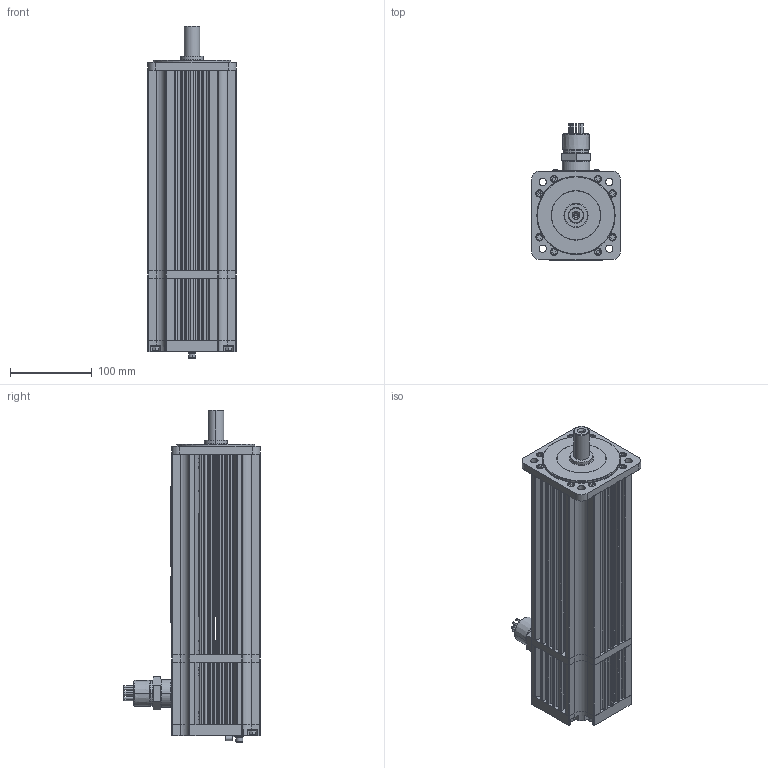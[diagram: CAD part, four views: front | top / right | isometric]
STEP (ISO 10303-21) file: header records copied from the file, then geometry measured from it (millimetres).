
FILE_DESCRIPTION (( 'STEP AP203' ), '1' );
FILE_NAME ('M443-KNN0-CG08.STEP', '2010-09-20T13:54:02', ( '' ), ( '' ), 'SwSTEP 2.0', 'SolidWorks 2010', '' );
FILE_SCHEMA (( 'CONFIG_CONTROL_DESIGN' ));
Length unit declared in the file: inch
Products named in the file (1): M443-KNN0-CG08
Bounding box: 108 x 166.17 x 405.2 mm (x, y, z)
Surface area: 390056.3 mm2 (no closed solid volume)
Topology: 0 solids, 162 shells, 1794 faces, 6112 edges, 4447 vertices
Faces by surface type: plane 837, cylinder 657, cone 178, torus 80, bspline 42
Entity records: 74179 total; most frequent: CARTESIAN_POINT 21761, DIRECTION 10906, ORIENTED_EDGE 9615, EDGE_CURVE 6072, VERTEX_POINT 4447, VECTOR 3642, LINE 3642, AXIS2_PLACEMENT_3D 3632
